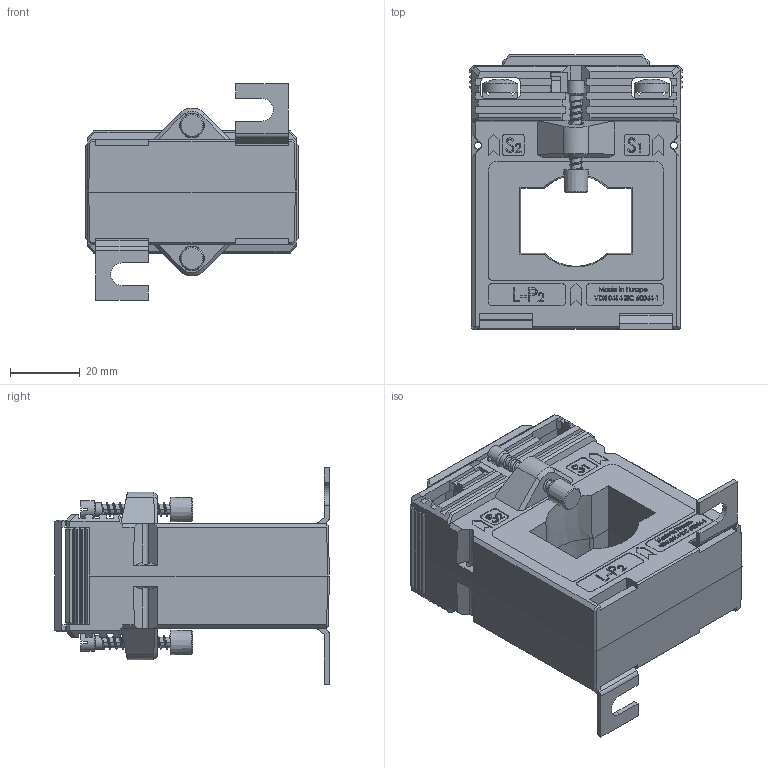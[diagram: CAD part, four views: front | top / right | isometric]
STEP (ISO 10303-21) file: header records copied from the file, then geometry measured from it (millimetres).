
FILE_DESCRIPTION(/* description */ (''),/* implementation_level */ '2;1');
FILE_NAME(/* name */ 'ASK318.3.stp',/* time_stamp */ '2024-03-04T15:23:58+01:00',/* author */ ('JDI'),/* organization */ (''),/* preprocessor_version */ 'ST-DEVELOPER v19.2',/* originating_system */ 'Autodesk Inventor 2023',/* authorisation */ '');
FILE_SCHEMA (('AUTOMOTIVE_DESIGN { 1 0 10303 214 3 1 1 }'));
Products named in the file (1): ASK318.3
Bounding box: 61 x 78.5 x 62 mm (x, y, z)
Volume: 112118.4 mm3; surface area: 34840.5 mm2
Topology: 2 solids, 2 shells, 1845 faces, 4945 edges, 3194 vertices
Faces by surface type: plane 1319, bspline 322, cylinder 138, cone 48, sphere 12, torus 6
Full cylindrical faces by diameter (mm): 2.95 x2, 3 x26, 3.8 x4, 4 x12, 4.1 x2, 5 x2, 10 x4
Entity records: 80726 total; most frequent: CARTESIAN_POINT 35112, ORIENTED_EDGE 9890, DIRECTION 7575, EDGE_CURVE 4945, LINE 3729, VECTOR 3729, VERTEX_POINT 3194, EDGE_LOOP 2005
